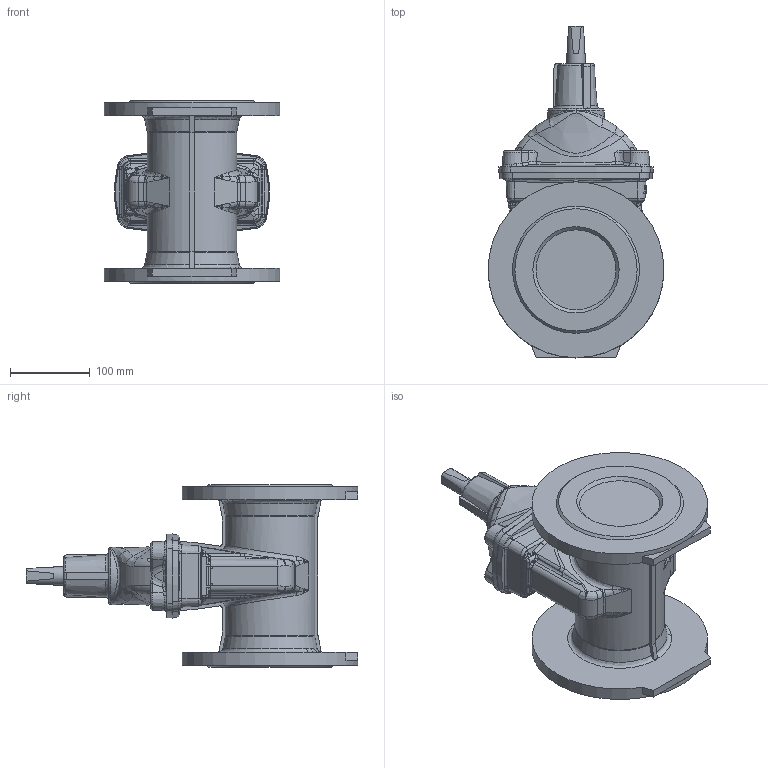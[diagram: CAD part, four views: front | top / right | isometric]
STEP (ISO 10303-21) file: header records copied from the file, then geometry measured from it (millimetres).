
FILE_DESCRIPTION (( 'STEP AP203' ), '1' );
FILE_NAME ('O_02_20_DN100_XXXXX9.STEP', '2014-07-14T07:36:06', ( '' ), ( '' ), 'SwSTEP 2.0', 'SolidWorks 2012', '' );
FILE_SCHEMA (( 'CONFIG_CONTROL_DESIGN' ));
Length unit declared in the file: millimetre
Products named in the file (1): O_02_20_DN100_XXXXX9
Bounding box: 220 x 415.26 x 229 mm (x, y, z)
Volume: 5186845 mm3; surface area: 322859.5 mm2
Topology: 1 solids, 1 shells, 616 faces, 1536 edges, 927 vertices
Faces by surface type: bspline 263, plane 166, cylinder 92, cone 57, torus 30, sphere 8
Full cylindrical faces by diameter (mm): 23 x1, 220 x2
Entity records: 27961 total; most frequent: CARTESIAN_POINT 15610, ORIENTED_EDGE 2990, DIRECTION 1974, EDGE_CURVE 1495, VERTEX_POINT 917, AXIS2_PLACEMENT_3D 760, EDGE_LOOP 652, FACE_OUTER_BOUND 623
